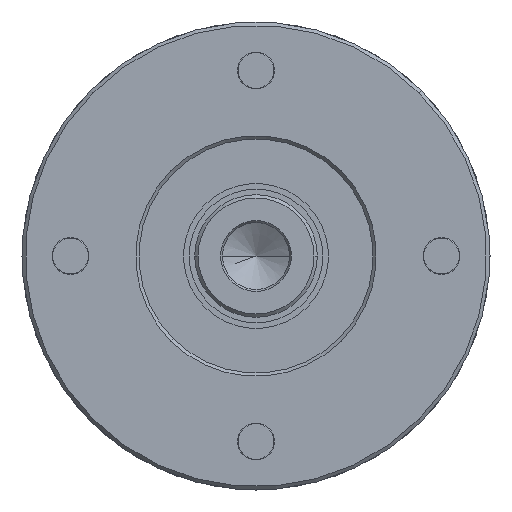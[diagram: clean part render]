
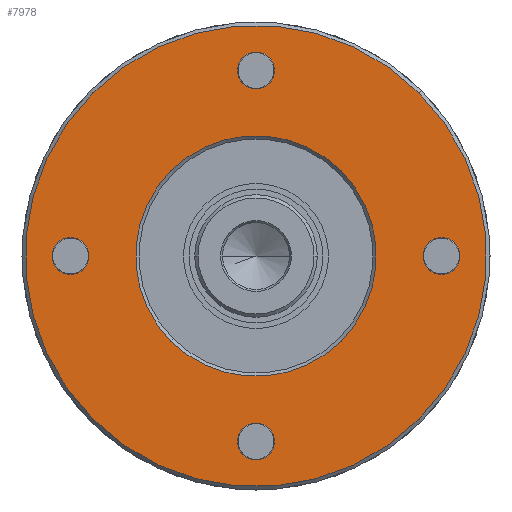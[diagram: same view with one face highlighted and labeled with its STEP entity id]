
A CAD part, left-side view. The second image highlights one B-rep face of the part: STEP entity #7978.
In plain terms, the highlighted planar face has unit normal (-1, 0, 0).
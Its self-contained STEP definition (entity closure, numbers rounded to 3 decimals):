
#7213=CARTESIAN_POINT('',(0.,11.773,-11.773));
#7214=DIRECTION('',(1.,0.,0.));
#7215=DIRECTION('',(0.,-1.,0.));
#7216=AXIS2_PLACEMENT_3D('',#7213,#7214,#7215);
#7221=CARTESIAN_POINT('',(0.,11.773,-11.773));
#7222=DIRECTION('',(1.,0.,0.));
#7223=DIRECTION('',(0.,1.,0.));
#7224=AXIS2_PLACEMENT_3D('',#7221,#7222,#7223);
#7229=CARTESIAN_POINT('',(0.,11.773,11.773));
#7230=DIRECTION('',(1.,0.,0.));
#7231=DIRECTION('',(0.,-1.,0.));
#7232=AXIS2_PLACEMENT_3D('',#7229,#7230,#7231);
#7237=CARTESIAN_POINT('',(0.,11.773,11.773));
#7238=DIRECTION('',(1.,0.,0.));
#7239=DIRECTION('',(0.,1.,0.));
#7240=AXIS2_PLACEMENT_3D('',#7237,#7238,#7239);
#7245=CARTESIAN_POINT('',(0.,-11.773,11.773));
#7246=DIRECTION('',(1.,0.,0.));
#7247=DIRECTION('',(0.,-1.,0.));
#7248=AXIS2_PLACEMENT_3D('',#7245,#7246,#7247);
#7253=CARTESIAN_POINT('',(0.,-11.773,11.773));
#7254=DIRECTION('',(1.,0.,0.));
#7255=DIRECTION('',(0.,1.,0.));
#7256=AXIS2_PLACEMENT_3D('',#7253,#7254,#7255);
#7261=CARTESIAN_POINT('',(0.,-11.773,-11.773));
#7262=DIRECTION('',(1.,0.,0.));
#7263=DIRECTION('',(0.,-1.,0.));
#7264=AXIS2_PLACEMENT_3D('',#7261,#7262,#7263);
#7269=CARTESIAN_POINT('',(0.,-11.773,-11.773));
#7270=DIRECTION('',(1.,0.,0.));
#7271=DIRECTION('',(0.,1.,0.));
#7272=AXIS2_PLACEMENT_3D('',#7269,#7270,#7271);
#7277=CARTESIAN_POINT('',(0.,0.,0.));
#7278=DIRECTION('',(-1.,0.,0.));
#7279=DIRECTION('',(0.,1.,0.));
#7280=AXIS2_PLACEMENT_3D('',#7277,#7278,#7279);
#7285=CARTESIAN_POINT('',(0.,0.,0.));
#7286=DIRECTION('',(-1.,0.,0.));
#7287=DIRECTION('',(0.,-1.,0.));
#7288=AXIS2_PLACEMENT_3D('',#7285,#7286,#7287);
#7293=CARTESIAN_POINT('',(0.,0.,0.));
#7294=DIRECTION('',(-1.,0.,0.));
#7295=DIRECTION('',(0.,-1.,0.));
#7296=AXIS2_PLACEMENT_3D('',#7293,#7294,#7295);
#7301=CARTESIAN_POINT('',(0.,0.,0.));
#7302=DIRECTION('',(-1.,0.,0.));
#7303=DIRECTION('',(0.,1.,0.));
#7304=AXIS2_PLACEMENT_3D('',#7301,#7302,#7303);
#7857=CARTESIAN_POINT('',(0.,10.123,-11.773));
#7858=CARTESIAN_POINT('',(0.,13.423,-11.773));
#7859=VERTEX_POINT('',#7857);
#7860=VERTEX_POINT('',#7858);
#7865=CARTESIAN_POINT('',(0.,10.123,11.773));
#7866=CARTESIAN_POINT('',(0.,13.423,11.773));
#7867=VERTEX_POINT('',#7865);
#7868=VERTEX_POINT('',#7866);
#7873=CARTESIAN_POINT('',(0.,-13.423,11.773));
#7874=CARTESIAN_POINT('',(0.,-10.123,11.773));
#7875=VERTEX_POINT('',#7873);
#7876=VERTEX_POINT('',#7874);
#7881=CARTESIAN_POINT('',(0.,-13.423,-11.773));
#7882=CARTESIAN_POINT('',(0.,-10.123,-11.773));
#7883=VERTEX_POINT('',#7881);
#7884=VERTEX_POINT('',#7882);
#7909=CARTESIAN_POINT('',(0.,20.7,0.));
#7910=CARTESIAN_POINT('',(0.,-20.7,0.));
#7911=VERTEX_POINT('',#7909);
#7912=VERTEX_POINT('',#7910);
#7925=CARTESIAN_POINT('',(0.,-10.8,0.));
#7926=CARTESIAN_POINT('',(0.,10.8,0.));
#7927=VERTEX_POINT('',#7925);
#7928=VERTEX_POINT('',#7926);
#7937=CARTESIAN_POINT('',(0.,0.,0.));
#7938=DIRECTION('',(1.,0.,0.));
#7939=DIRECTION('',(0.,-1.,0.));
#7940=AXIS2_PLACEMENT_3D('',#7937,#7938,#7939);
#7941=PLANE('',#7940);
#7943=ORIENTED_EDGE('',*,*,#7942,.F.);
#7945=ORIENTED_EDGE('',*,*,#7944,.F.);
#7946=EDGE_LOOP('',(#7943,#7945));
#7947=FACE_OUTER_BOUND('',#7946,.F.);
#7949=ORIENTED_EDGE('',*,*,#7948,.F.);
#7951=ORIENTED_EDGE('',*,*,#7950,.F.);
#7952=EDGE_LOOP('',(#7949,#7951));
#7953=FACE_BOUND('',#7952,.F.);
#7955=ORIENTED_EDGE('',*,*,#7954,.F.);
#7957=ORIENTED_EDGE('',*,*,#7956,.F.);
#7958=EDGE_LOOP('',(#7955,#7957));
#7959=FACE_BOUND('',#7958,.F.);
#7961=ORIENTED_EDGE('',*,*,#7960,.F.);
#7963=ORIENTED_EDGE('',*,*,#7962,.F.);
#7964=EDGE_LOOP('',(#7961,#7963));
#7965=FACE_BOUND('',#7964,.F.);
#7967=ORIENTED_EDGE('',*,*,#7966,.F.);
#7969=ORIENTED_EDGE('',*,*,#7968,.F.);
#7970=EDGE_LOOP('',(#7967,#7969));
#7971=FACE_BOUND('',#7970,.F.);
#7973=ORIENTED_EDGE('',*,*,#7972,.T.);
#7975=ORIENTED_EDGE('',*,*,#7974,.T.);
#7976=EDGE_LOOP('',(#7973,#7975));
#7977=FACE_BOUND('',#7976,.F.);
#7217=CIRCLE('',#7216,1.65);
#7225=CIRCLE('',#7224,1.65);
#7233=CIRCLE('',#7232,1.65);
#7241=CIRCLE('',#7240,1.65);
#7249=CIRCLE('',#7248,1.65);
#7257=CIRCLE('',#7256,1.65);
#7265=CIRCLE('',#7264,1.65);
#7273=CIRCLE('',#7272,1.65);
#7281=CIRCLE('',#7280,20.7);
#7289=CIRCLE('',#7288,20.7);
#7297=CIRCLE('',#7296,10.8);
#7305=CIRCLE('',#7304,10.8);
#7942=EDGE_CURVE('',#7911,#7912,#7281,.T.);
#7944=EDGE_CURVE('',#7912,#7911,#7289,.T.);
#7948=EDGE_CURVE('',#7867,#7868,#7233,.T.);
#7950=EDGE_CURVE('',#7868,#7867,#7241,.T.);
#7954=EDGE_CURVE('',#7875,#7876,#7249,.T.);
#7956=EDGE_CURVE('',#7876,#7875,#7257,.T.);
#7960=EDGE_CURVE('',#7883,#7884,#7265,.T.);
#7962=EDGE_CURVE('',#7884,#7883,#7273,.T.);
#7966=EDGE_CURVE('',#7859,#7860,#7217,.T.);
#7968=EDGE_CURVE('',#7860,#7859,#7225,.T.);
#7972=EDGE_CURVE('',#7927,#7928,#7297,.T.);
#7974=EDGE_CURVE('',#7928,#7927,#7305,.T.);
#7978=ADVANCED_FACE('',(#7947,#7953,#7959,#7965,#7971,#7977),#7941,.F.);
